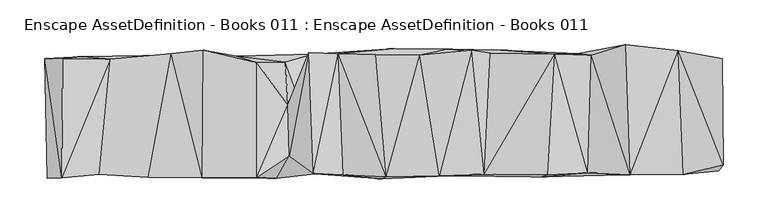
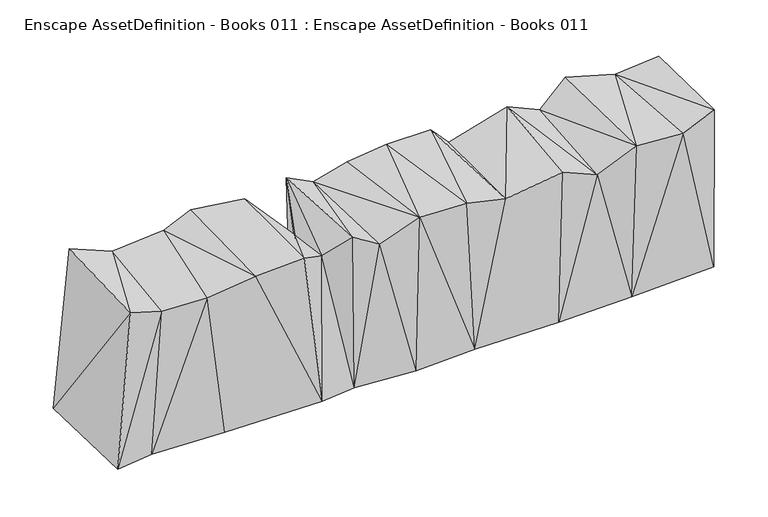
"""IFC4 building model written with IfcOpenShell, lengths in millimetres: geographic element geometry, Enscape AssetDefinition - Books 011 : Enscape AssetDefinition - Books 011."""

import ifcopenshell
import ifcopenshell.guid

model = None  # the IFC model being written
_history = None  # IfcOwnerHistory: only IFC2X3 demands one
_inside = {}  # id of a spatial element -> (the spatial element, [elements in it])
_under = {}  # id of a project, library or spatial element -> (it, [spatial elements below it])
_declared = {}  # id of a project -> (the project, [libraries it declares])
_typed = {}  # id of a type object -> (the type object, [elements of that type])
_made_of = {}  # id of a material, layer set ... -> (it, [elements and type objects made of it])


def new_model(schema):
    """Start an empty IFC model of exactly this schema.

    Asked for "IFC4X3", IfcOpenShell would pick the latest addendum, in which some entities
    have other attributes; the version numbers below select the first issue.
    IFC2X3 requires an IfcOwnerHistory on every rooted entity: one is made here for all.
    """
    global model, _history
    if schema == "IFC4X3":
        model = ifcopenshell.file(schema_version=(4, 3, 0, 0))
    else:
        model = ifcopenshell.file(schema=schema)
    _inside.clear()
    _under.clear()
    _declared.clear()
    _typed.clear()
    _made_of.clear()
    _history = None
    if model.schema == "IFC2X3":
        org = make("IfcOrganization", Name="unknown")
        user = make(
            "IfcPersonAndOrganization",
            ThePerson=make("IfcPerson", FamilyName="unknown"),
            TheOrganization=org,
        )
        app = make(
            "IfcApplication",
            ApplicationDeveloper=org,
            Version="unknown",
            ApplicationFullName="unknown",
            ApplicationIdentifier="unknown",
        )
        _history = make(
            "IfcOwnerHistory",
            OwningUser=user,
            OwningApplication=app,
            ChangeAction="ADDED",
            CreationDate=0,
        )
    return model


def make(cls, **values):
    """One entity of the class cls with the attributes given. An attribute that is None is left unset."""
    return model.create_entity(
        cls, **{name: value for name, value in values.items() if value is not None}
    )


def rooted(cls, **values):
    """An entity with a GlobalId (a new one), such as an element, a storey or a relation."""
    return make(cls, GlobalId=ifcopenshell.guid.new(), OwnerHistory=_history, **values)


def si_unit(unit_type, name, prefix=None):
    """IfcSIUnit, for example si_unit("LENGTHUNIT", "METRE", prefix="MILLI")."""
    return make("IfcSIUnit", UnitType=unit_type, Prefix=prefix, Name=name)


def assignment(units):
    """IfcUnitAssignment: the units of a project."""
    return None if units is None else make("IfcUnitAssignment", Units=units)


def point(xyz):
    """IfcCartesianPoint."""
    return None if xyz is None else make("IfcCartesianPoint", Coordinates=xyz)


def direction(xyz):
    """IfcDirection."""
    return None if xyz is None else make("IfcDirection", DirectionRatios=xyz)


def frame(location, z_axis=None, x_axis=None):
    """IfcAxis2Placement3D, a coordinate frame: its origin and axes. An axis left out is left unset."""
    return make(
        "IfcAxis2Placement3D",
        Location=point(location),
        Axis=direction(z_axis),
        RefDirection=direction(x_axis),
    )


def origin():
    """The frame at (0, 0, 0) with its axes left unset."""
    return frame((0.0, 0.0, 0.0))


def place(relative_to, where):
    """IfcLocalPlacement: puts the frame where relative to a parent placement (None: the world)."""
    return make(
        "IfcLocalPlacement", PlacementRelTo=relative_to, RelativePlacement=where
    )


def context(
    kind, dimensions, precision=None, world=None, true_north=None, identifier=None
):
    """IfcGeometricRepresentationContext, for example the 3D "Model" context."""
    return make(
        "IfcGeometricRepresentationContext",
        ContextIdentifier=identifier,
        ContextType=kind,
        CoordinateSpaceDimension=dimensions,
        Precision=precision,
        WorldCoordinateSystem=world,
        TrueNorth=true_north,
    )


def project(units=None, contexts=None):
    """IfcProject with its units and contexts."""
    return rooted(
        "IfcProject",
        Name="project",
        RepresentationContexts=contexts,
        UnitsInContext=assignment(units),
    )


def spatial(cls, under=None, at=None, **own):
    """A site, building, storey or space (cls), placed at a placement, below another one or the project."""
    s = rooted(cls, ObjectPlacement=at, **own)
    if under is not None:
        _under.setdefault(under.id(), (under, []))[1].append(s)
    return s


def point_list(points):
    """IfcCartesianPointList2D or 3D."""
    cls = (
        "IfcCartesianPointList2D" if len(points[0]) == 2 else "IfcCartesianPointList3D"
    )
    return make(cls, CoordList=points)


def triangles(points, corners, closed=None, point_numbers=None):
    """IfcTriangulatedFaceSet: each triangle names its three corners, points numbered from 1."""
    return make(
        "IfcTriangulatedFaceSet",
        Coordinates=point_list(points),
        Closed=closed,
        CoordIndex=corners,
        PnIndex=point_numbers,
    )


def shape(context_of_items, identifier, shape_type, items):
    """IfcShapeRepresentation: the items that make up one representation, for example the "Body"."""
    return make(
        "IfcShapeRepresentation",
        ContextOfItems=context_of_items,
        RepresentationIdentifier=identifier,
        RepresentationType=shape_type,
        Items=items,
    )


def source(mapping_origin, context_of_items, identifier, shape_type, items):
    """IfcRepresentationMap: a shape defined once, which mapped items show again and again."""
    return make(
        "IfcRepresentationMap",
        MappingOrigin=mapping_origin,
        MappedRepresentation=shape(context_of_items, identifier, shape_type, items),
    )


def transform(
    local_origin,
    x_axis=None,
    y_axis=None,
    z_axis=None,
    scale=None,
    scale2=None,
    scale3=None,
    uniform=True,
):
    """IfcCartesianTransformationOperator3D, or its non-uniform kind. x_axis, y_axis, z_axis: its Axis1, 2, 3."""
    if uniform:
        return make(
            "IfcCartesianTransformationOperator3D",
            Axis1=direction(x_axis),
            Axis2=direction(y_axis),
            LocalOrigin=point(local_origin),
            Scale=scale,
            Axis3=direction(z_axis),
        )
    return make(
        "IfcCartesianTransformationOperator3DnonUniform",
        Axis1=direction(x_axis),
        Axis2=direction(y_axis),
        LocalOrigin=point(local_origin),
        Scale=scale,
        Axis3=direction(z_axis),
        Scale2=scale2,
        Scale3=scale3,
    )


def mapped(mapping_source, mapping_target):
    """IfcMappedItem: shows the shape of a source again, moved by a transform."""
    return make(
        "IfcMappedItem", MappingSource=mapping_source, MappingTarget=mapping_target
    )


def made_of(thing, what):
    """Note that an element or type object is made of a material, layer set ...; save() writes the relation."""
    if what is not None:
        _made_of.setdefault(what.id(), (what, []))[1].append(thing)
    return thing


def element(
    cls,
    number,
    at=None,
    inside=None,
    cuts=None,
    type_object=None,
    material=None,
    context=None,
    identifier="Body",
    shape_type=None,
    held_by="IfcProductDefinitionShape",
    body=None,
    shapes=None,
    **own,
):
    """One element of the class cls, such as IfcWall. Its Tag is "e" and its number.

    at: its placement. inside: the storey or other place that contains it. cuts: it is an
    opening in that element (IfcRelVoidsElement). A single representation is given by context,
    identifier, shape_type and body (its items); several are given by shapes. held_by: the class
    of the entity that holds the representations. save() writes the other relations.
    """
    e = rooted(cls, Tag="e%d" % number, ObjectPlacement=at, **own)
    if body is not None:
        shapes = [shape(context, identifier, shape_type, body)]
    if shapes is not None:
        e.Representation = make(held_by, Representations=shapes)
    if inside is not None:
        _inside.setdefault(inside.id(), (inside, []))[1].append(e)
    if cuts is not None:
        rooted(
            "IfcRelVoidsElement", RelatingBuildingElement=cuts, RelatedOpeningElement=e
        )
    if type_object is not None:
        _typed.setdefault(type_object.id(), (type_object, []))[1].append(e)
    return made_of(e, material)


def aggregate(whole, parts):
    """IfcRelAggregates: a whole, such as a stair, and the parts it consists of."""
    return rooted("IfcRelAggregates", RelatingObject=whole, RelatedObjects=parts)


def save(model, path):
    """Write the relations noted so far, then the file.

    IfcRelAggregates (storeys below a building ...), IfcRelContainedInSpatialStructure (elements
    in a storey), IfcRelDefinesByType, IfcRelAssociatesMaterial and IfcRelDeclares: one each for
    every whole, place, type object, material and project.
    """
    for whole, parts in _under.values():
        aggregate(whole, parts)
    for where, things in _inside.values():
        rooted(
            "IfcRelContainedInSpatialStructure",
            RelatedElements=things,
            RelatingStructure=where,
        )
    for kind, things in _typed.values():
        rooted("IfcRelDefinesByType", RelatedObjects=things, RelatingType=kind)
    for what, things in _made_of.values():
        rooted("IfcRelAssociatesMaterial", RelatedObjects=things, RelatingMaterial=what)
    for by, libraries in _declared.values():
        rooted("IfcRelDeclares", RelatingContext=by, RelatedDefinitions=libraries)
    model.write(path)


def enscape_assetdefinition_books_011_enscape_assetdefinition_1bed9dea(model_context):
    return source(origin(), model_context, "Body", "Tessellation", [
        triangles([(-352.1562664, -71.4327628, 199.7380626), (-351.1992027, 61.2392898, 202.8517352), (-329.4569252, 63.4327833, 0.0), (-370.8228596, 61.6197353, 0.0), (-368.1799976, -72.1306445, 0.0), (-298.1204113, 61.0883043, 181.1748606), (-322.0525806, -65.8366972, 0.0), (-310.4562318, -67.396513, 184.7842878), (-230.5847626, 66.9922908, 181.7776218), (-158.4898172, 64.2376533, 0.0), (-228.267662, 65.3337983, 0.0), (-255.9864279, -70.5827193, 185.4488912), (-233.4238335, -69.0454903, 0.0), (-194.8660307, 70.8418923, 193.8055395), (-196.1392997, -71.3019886, 192.8687144), (-135.4885232, -70.7313249, 194.9171359), (-135.4373998, 57.0996079, 195.6827868), (-103.9344081, 57.4657783, 58.6713098), (-101.0715832, 9.5788189, 165.0952462), (-113.6107161, -71.7597096, 0.0), (-70.6623702, -66.8995593, 0.0), (-99.4856154, -46.6410166, 171.4355387), (-88.0628479, 14.2118914, 64.9593026), (-77.5923569, 67.9279395, 196.3687733), (-72.6549311, -66.4786911, 198.385111), (-39.5243725, -67.8637401, 178.2228787), (-44.788736, 67.2110456, 180.101307), (77.4223545, -69.1263311, 0.0), (2.6512059, -72.446877, 0.0), (8.3019602, -70.5137555, 198.3209071), (67.4143444, -69.2725704, 195.5936026), (-72.8415931, 66.529819, 0.0), (16.5361534, 72.8332678, 0.0), (-3.0375925, 66.1101408, 192.5179909), (76.7815506, 72.142526, 0.0), (135.4778134, 71.0879937, 0.0), (103.6716698, 70.7146835, 194.6222956), (124.0063025, 67.4476318, 173.0559703), (45.5864798, 65.2327461, 199.0199741), (117.4519969, -67.3465796, 182.5599142), (195.8777604, 66.1695803, 195.0812066), (236.3187512, 65.5977356, 177.4679285), (365.7891915, 64.306608, 0.0), (221.2056839, 66.8448752, 0.0), (187.7624491, -68.2513209, 193.4750183), (181.0999742, -70.4162733, 0.0), (232.2278127, -65.7059185, 172.9323405), (338.2154386, -67.3168531, 191.4039964), (279.6118936, -68.2227843, 196.5352057), (273.4915368, -68.1466898, 0.0), (274.6506593, 76.7232875, 200.3717448), (382.6546228, -56.809523, 200.2837596), (333.0520909, 70.4602613, 187.4806894), (378.0881138, -63.5290801, 0.0), (381.686913, 61.2285937, 199.6893192)], [[53, 52, 55], [52, 54, 55], [48, 52, 53], [48, 54, 52], [53, 49, 48], [51, 49, 53], [53, 43, 51], [55, 43, 53], [55, 54, 43], [43, 54, 50], [50, 48, 49], [50, 54, 48], [45, 46, 47], [47, 46, 50], [47, 50, 49], [42, 49, 51], [42, 47, 49], [43, 44, 51], [44, 42, 51], [43, 50, 44], [50, 46, 44], [42, 44, 41], [41, 47, 42], [45, 47, 41], [41, 40, 45], [40, 46, 45], [38, 40, 41], [40, 38, 37], [44, 36, 41], [44, 46, 36], [41, 36, 38], [36, 35, 38], [38, 39, 37], [38, 35, 39], [39, 31, 37], [31, 40, 37], [28, 35, 36], [28, 36, 46], [40, 28, 46], [31, 28, 40], [35, 33, 39], [33, 34, 39], [28, 33, 35], [33, 29, 32], [28, 29, 33], [30, 31, 39], [34, 30, 39], [30, 29, 28], [28, 31, 30], [27, 30, 34], [34, 33, 27], [33, 32, 27], [30, 26, 29], [26, 30, 27], [29, 21, 32], [21, 29, 26], [25, 21, 26], [25, 26, 27], [27, 32, 24], [24, 25, 27], [32, 23, 24], [18, 23, 32], [18, 19, 23], [19, 24, 23], [21, 25, 22], [19, 22, 24], [22, 25, 24], [21, 20, 32], [22, 20, 21], [19, 16, 22], [16, 20, 22], [15, 20, 16], [19, 18, 17], [16, 19, 17], [17, 18, 10], [32, 20, 10], [32, 10, 18], [16, 17, 14], [15, 16, 14], [17, 10, 14], [9, 15, 14], [12, 15, 9], [20, 13, 10], [12, 13, 15], [15, 13, 20], [11, 9, 14], [10, 11, 14], [13, 11, 10], [6, 12, 9], [9, 11, 6], [8, 12, 6], [8, 7, 12], [7, 13, 12], [13, 7, 11], [11, 7, 3], [6, 11, 3], [6, 3, 2], [2, 1, 6], [1, 8, 6], [1, 5, 8], [5, 7, 8], [3, 4, 2], [3, 7, 4], [7, 5, 4], [1, 2, 4], [4, 5, 1]]),
    ])


if __name__ == "__main__":
    model = new_model("IFC4")
    model_context = context("Model", 3, world=origin())
    ifc_project = project(units=[si_unit("LENGTHUNIT", "METRE", prefix="MILLI")], contexts=[model_context])
    site = spatial("IfcSite", under=ifc_project)
    building = spatial("IfcBuilding", under=site)
    placement = place(None, origin())
    enscape_assetdefinition_books_011_enscape_assetdefinition_shape = enscape_assetdefinition_books_011_enscape_assetdefinition_1bed9dea(model_context)
    element("IfcGeographicElement", 1, ObjectType="Enscape AssetDefinition - Books 011 : Enscape AssetDefinition - Books 011", at=placement, inside=building, context=model_context, shape_type="MappedRepresentation", body=[
        mapped(enscape_assetdefinition_books_011_enscape_assetdefinition_shape, transform((0.0, 0.0, 0.0), x_axis=(1.0, 0.0, 0.0), y_axis=(0.0, 1.0, 0.0), z_axis=(0.0, 0.0, 1.0))),
    ])
    save(model, "model.ifc")
